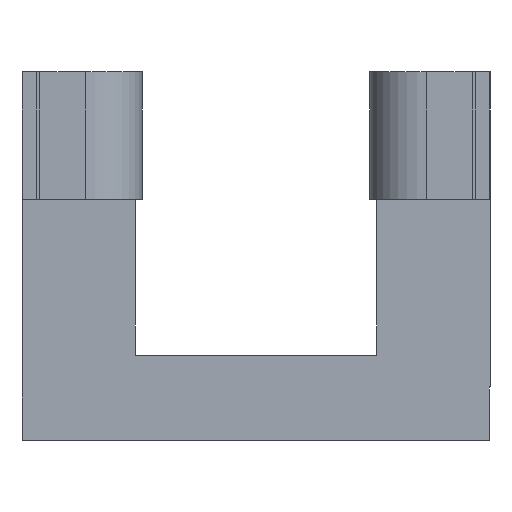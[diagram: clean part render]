
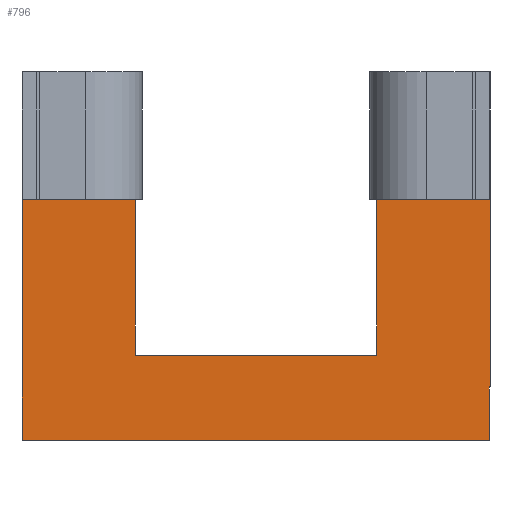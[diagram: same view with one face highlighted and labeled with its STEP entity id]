
A CAD part, left-side view. The second image highlights one B-rep face of the part: STEP entity #796.
In plain terms, the highlighted planar face has unit normal (-1, 0, 0).
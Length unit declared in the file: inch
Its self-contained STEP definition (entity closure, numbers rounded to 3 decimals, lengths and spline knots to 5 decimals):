
#511=CARTESIAN_POINT('',(-0.75,-2.06,-2.2185));
#512=VERTEX_POINT('',#511);
#521=CARTESIAN_POINT('',(-0.75,-2.06,-2.6875));
#522=VERTEX_POINT('',#521);
#523=CARTESIAN_POINT('',(-0.75,-2.06,-2.6875));
#524=DIRECTION('',(0.0,0.0,1.0));
#525=VECTOR('',#524,0.469);
#526=LINE('',#523,#525);
#527=EDGE_CURVE('',#522,#512,#526,.T.);
#555=CARTESIAN_POINT('',(-0.75,2.065,-2.6875));
#556=VERTEX_POINT('',#555);
#557=CARTESIAN_POINT('',(-0.75,-2.06,-2.6875));
#558=DIRECTION('',(0.0,1.0,0.0));
#559=VECTOR('',#558,4.125);
#560=LINE('',#557,#559);
#561=EDGE_CURVE('',#522,#556,#560,.T.);
#596=CARTESIAN_POINT('',(-0.75,-1.065,-1.9375));
#597=VERTEX_POINT('',#596);
#612=CARTESIAN_POINT('',(-0.75,1.065,-1.9375));
#613=VERTEX_POINT('',#612);
#620=CARTESIAN_POINT('',(-0.75,1.065,-1.9375));
#621=DIRECTION('',(0.0,-1.0,0.0));
#622=VECTOR('',#621,2.13);
#623=LINE('',#620,#622);
#624=EDGE_CURVE('',#613,#597,#623,.T.);
#651=CARTESIAN_POINT('',(-0.75,1.065,-0.5625));
#652=VERTEX_POINT('',#651);
#659=CARTESIAN_POINT('',(-0.75,1.065,-1.9375));
#660=DIRECTION('',(0.0,0.0,1.0));
#661=VECTOR('',#660,1.375);
#662=LINE('',#659,#661);
#663=EDGE_CURVE('',#613,#652,#662,.T.);
#673=CARTESIAN_POINT('',(-0.75,2.065,-0.5625));
#674=VERTEX_POINT('',#673);
#675=CARTESIAN_POINT('',(-0.75,2.065,-0.5625));
#676=DIRECTION('',(0.0,-1.0,0.0));
#677=VECTOR('',#676,1.0);
#678=LINE('',#675,#677);
#679=EDGE_CURVE('',#674,#652,#678,.T.);
#704=CARTESIAN_POINT('',(-0.75,2.065,-2.6875));
#705=DIRECTION('',(0.0,0.0,1.0));
#706=VECTOR('',#705,2.125);
#707=LINE('',#704,#706);
#708=EDGE_CURVE('',#556,#674,#707,.T.);
#735=CARTESIAN_POINT('',(-0.75,-1.065,-0.5625));
#736=VERTEX_POINT('',#735);
#737=CARTESIAN_POINT('',(-0.75,-1.065,-1.9375));
#738=DIRECTION('',(0.0,0.0,1.0));
#739=VECTOR('',#738,1.375);
#740=LINE('',#737,#739);
#741=EDGE_CURVE('',#597,#736,#740,.T.);
#760=CARTESIAN_POINT('',(-0.75,-1.565,-1.3905));
#761=DIRECTION('',(1.0,0.0,0.0));
#762=DIRECTION('',(0.0,0.0,-1.0));
#763=AXIS2_PLACEMENT_3D('',#760,#761,#762);
#764=PLANE('',#763);
#765=ORIENTED_EDGE('',*,*,#624,.F.);
#766=ORIENTED_EDGE('',*,*,#663,.T.);
#767=ORIENTED_EDGE('',*,*,#679,.F.);
#768=ORIENTED_EDGE('',*,*,#708,.F.);
#769=ORIENTED_EDGE('',*,*,#561,.F.);
#770=ORIENTED_EDGE('',*,*,#527,.T.);
#771=CARTESIAN_POINT('',(-0.75,-2.065,-2.2185));
#772=VERTEX_POINT('',#771);
#773=CARTESIAN_POINT('',(-0.75,-2.065,-2.2185));
#774=DIRECTION('',(0.0,1.0,0.0));
#775=VECTOR('',#774,0.005);
#776=LINE('',#773,#775);
#777=EDGE_CURVE('',#772,#512,#776,.T.);
#778=ORIENTED_EDGE('',*,*,#777,.F.);
#779=CARTESIAN_POINT('',(-0.75,-2.065,-0.5625));
#780=VERTEX_POINT('',#779);
#781=CARTESIAN_POINT('',(-0.75,-2.065,-2.2185));
#782=DIRECTION('',(0.0,0.0,1.0));
#783=VECTOR('',#782,1.656);
#784=LINE('',#781,#783);
#785=EDGE_CURVE('',#772,#780,#784,.T.);
#786=ORIENTED_EDGE('',*,*,#785,.T.);
#787=CARTESIAN_POINT('',(-0.75,-1.065,-0.5625));
#788=DIRECTION('',(0.0,-1.0,0.0));
#789=VECTOR('',#788,1.0);
#790=LINE('',#787,#789);
#791=EDGE_CURVE('',#736,#780,#790,.T.);
#792=ORIENTED_EDGE('',*,*,#791,.F.);
#793=ORIENTED_EDGE('',*,*,#741,.F.);
#794=EDGE_LOOP('',(#765,#766,#767,#768,#769,#770,#778,#786,#792,#793));
#795=FACE_OUTER_BOUND('',#794,.T.);
#796=ADVANCED_FACE('',(#795),#764,.F.);
